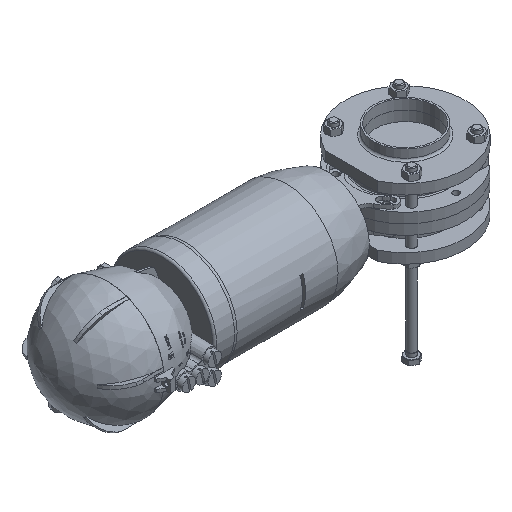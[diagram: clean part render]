
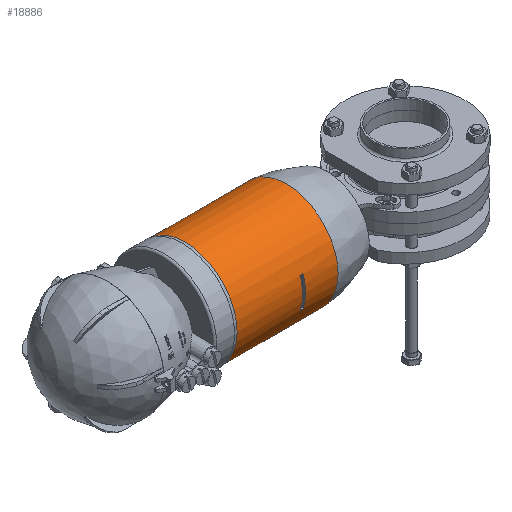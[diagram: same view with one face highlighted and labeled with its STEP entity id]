
A CAD part, isometric view. The second image highlights one B-rep face of the part: STEP entity #18886.
In plain terms, the highlighted cylindrical face has radius 52 mm (diameter 104 mm), a full revolution.
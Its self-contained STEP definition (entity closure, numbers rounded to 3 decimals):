
#698=B_SPLINE_CURVE_WITH_KNOTS('',3,(#29595,#29596,#29597,#29598,#29599,
#29600,#29601,#29602,#29603,#29604),.UNSPECIFIED.,.F.,.F.,(4,2,2,2,4),(2.276,
2.466,2.656,2.845,3.034),
 .UNSPECIFIED.);
#699=B_SPLINE_CURVE_WITH_KNOTS('',3,(#29606,#29607,#29608,#29609,#29610,
#29611,#29612,#29613,#29614,#29615,#29616,#29617,#29618,#29619,#29620,#29621,
#29622,#29623),.UNSPECIFIED.,.F.,.F.,(4,2,2,2,2,2,2,2,4),(0.759,
0.949,1.139,1.328,1.517,1.706,
1.895,2.086,2.276),.UNSPECIFIED.);
#700=B_SPLINE_CURVE_WITH_KNOTS('',3,(#29624,#29625,#29626,#29627,#29628,
#29629,#29630,#29631,#29632,#29633),.UNSPECIFIED.,.F.,.F.,(4,2,2,2,4),(3.034,
3.224,3.413,3.603,3.793),
 .UNSPECIFIED.);
#1019=CYLINDRICAL_SURFACE('',#20387,52.);
#2189=FACE_BOUND('',#5740,.T.);
#2190=FACE_BOUND('',#5741,.T.);
#2493=LINE('',#29400,#3583);
#2496=LINE('',#29432,#3586);
#2526=LINE('',#29671,#3616);
#3583=VECTOR('',#23115,10.);
#3586=VECTOR('',#23128,10.);
#3616=VECTOR('',#23286,52.);
#4649=FACE_OUTER_BOUND('',#5739,.T.);
#5739=EDGE_LOOP('',(#13080,#13081,#13082,#13083,#13084,#13085));
#5740=EDGE_LOOP('',(#13086,#13087,#13088,#13089));
#5741=EDGE_LOOP('',(#13090,#13091,#13092));
#6858=CIRCLE('',#20322,52.);
#6859=CIRCLE('',#20325,52.);
#6868=CIRCLE('',#20344,52.);
#6869=CIRCLE('',#20345,52.);
#6889=CIRCLE('',#20385,52.);
#6890=CIRCLE('',#20386,52.);
#7821=VERTEX_POINT('',#29397);
#7822=VERTEX_POINT('',#29399);
#7825=VERTEX_POINT('',#29407);
#7827=VERTEX_POINT('',#29431);
#7837=VERTEX_POINT('',#29507);
#7838=VERTEX_POINT('',#29509);
#7865=VERTEX_POINT('',#29592);
#7866=VERTEX_POINT('',#29594);
#7867=VERTEX_POINT('',#29605);
#7869=VERTEX_POINT('',#29665);
#7870=VERTEX_POINT('',#29667);
#9796=EDGE_CURVE('',#7822,#7821,#2493,.T.);
#9800=EDGE_CURVE('',#7825,#7822,#6858,.T.);
#9803=EDGE_CURVE('',#7827,#7825,#2496,.T.);
#9805=EDGE_CURVE('',#7821,#7827,#6859,.T.);
#9824=EDGE_CURVE('',#7838,#7837,#6868,.T.);
#9825=EDGE_CURVE('',#7837,#7838,#6869,.T.);
#9862=EDGE_CURVE('',#7866,#7865,#698,.T.);
#9863=EDGE_CURVE('',#7867,#7866,#699,.T.);
#9864=EDGE_CURVE('',#7865,#7867,#700,.T.);
#9868=EDGE_CURVE('',#7870,#7869,#6889,.T.);
#9869=EDGE_CURVE('',#7869,#7870,#6890,.T.);
#9870=EDGE_CURVE('',#7838,#7870,#2526,.T.);
#13080=ORIENTED_EDGE('',*,*,#9824,.T.);
#13081=ORIENTED_EDGE('',*,*,#9825,.T.);
#13082=ORIENTED_EDGE('',*,*,#9870,.T.);
#13083=ORIENTED_EDGE('',*,*,#9868,.T.);
#13084=ORIENTED_EDGE('',*,*,#9869,.T.);
#13085=ORIENTED_EDGE('',*,*,#9870,.F.);
#13086=ORIENTED_EDGE('',*,*,#9805,.T.);
#13087=ORIENTED_EDGE('',*,*,#9803,.T.);
#13088=ORIENTED_EDGE('',*,*,#9800,.T.);
#13089=ORIENTED_EDGE('',*,*,#9796,.T.);
#13090=ORIENTED_EDGE('',*,*,#9863,.T.);
#13091=ORIENTED_EDGE('',*,*,#9862,.T.);
#13092=ORIENTED_EDGE('',*,*,#9864,.T.);
#18886=ADVANCED_FACE('',(#4649,#2189,#2190),#1019,.T.);
#20322=AXIS2_PLACEMENT_3D('',#29408,#23123,#23124);
#20325=AXIS2_PLACEMENT_3D('',#29435,#23132,#23133);
#20344=AXIS2_PLACEMENT_3D('',#29510,#23178,#23179);
#20345=AXIS2_PLACEMENT_3D('',#29511,#23180,#23181);
#20385=AXIS2_PLACEMENT_3D('',#29668,#23280,#23281);
#20386=AXIS2_PLACEMENT_3D('',#29669,#23282,#23283);
#20387=AXIS2_PLACEMENT_3D('',#29670,#23284,#23285);
#23115=DIRECTION('',(0.,1.,0.));
#23123=DIRECTION('center_axis',(0.,-1.,0.));
#23124=DIRECTION('ref_axis',(0.,0.,
1.));
#23128=DIRECTION('',(0.,-1.,0.));
#23132=DIRECTION('center_axis',(0.,1.,0.));
#23133=DIRECTION('ref_axis',(0.,0.,
1.));
#23178=DIRECTION('center_axis',(0.,-1.,0.));
#23179=DIRECTION('ref_axis',(0.,0.,
1.));
#23180=DIRECTION('center_axis',(0.,-1.,0.));
#23181=DIRECTION('ref_axis',(0.,0.,
1.));
#23280=DIRECTION('center_axis',(0.,1.,0.));
#23281=DIRECTION('ref_axis',(1.,0.,0.));
#23282=DIRECTION('center_axis',(0.,1.,0.));
#23283=DIRECTION('ref_axis',(1.,0.,0.));
#23284=DIRECTION('center_axis',(0.,1.,0.));
#23285=DIRECTION('ref_axis',(-1.,0.,0.));
#23286=DIRECTION('',(0.,-1.,0.));
#29397=CARTESIAN_POINT('',(15.,77.,-49.79));
#29399=CARTESIAN_POINT('',(15.,74.,-49.79));
#29400=CARTESIAN_POINT('',(15.,106.75,-49.79));
#29407=CARTESIAN_POINT('',(-15.,74.,-49.79));
#29408=CARTESIAN_POINT('Origin',(0.,74.,
0.));
#29431=CARTESIAN_POINT('',(-15.,77.,-49.79));
#29432=CARTESIAN_POINT('',(-15.,106.75,-49.79));
#29435=CARTESIAN_POINT('Origin',(0.,77.,
0.));
#29507=CARTESIAN_POINT('',(0.,142.5,-52.));
#29509=CARTESIAN_POINT('',(52.,142.5,0.));
#29510=CARTESIAN_POINT('Origin',(0.,142.5,0.));
#29511=CARTESIAN_POINT('Origin',(0.,142.5,0.));
#29592=CARTESIAN_POINT('',(-4.963,59.,51.763));
#29594=CARTESIAN_POINT('',(0.,53.9,52.));
#29595=CARTESIAN_POINT('Ctrl Pts',(0.,53.9,
52.));
#29596=CARTESIAN_POINT('Ctrl Pts',(-0.634,53.9,
52.));
#29597=CARTESIAN_POINT('Ctrl Pts',(-1.308,54.033,51.987));
#29598=CARTESIAN_POINT('Ctrl Pts',(-2.541,54.566,51.942));
#29599=CARTESIAN_POINT('Ctrl Pts',(-3.1,54.966,51.909));
#29600=CARTESIAN_POINT('Ctrl Pts',(-3.973,55.879,51.85));
#29601=CARTESIAN_POINT('Ctrl Pts',(-4.348,56.45,51.819));
#29602=CARTESIAN_POINT('Ctrl Pts',(-4.842,57.696,51.775));
#29603=CARTESIAN_POINT('Ctrl Pts',(-4.963,58.37,51.763));
#29604=CARTESIAN_POINT('Ctrl Pts',(-4.963,59.,51.763));
#29605=CARTESIAN_POINT('',(0.,64.1,52.));
#29606=CARTESIAN_POINT('Ctrl Pts',(0.,64.1,
52.));
#29607=CARTESIAN_POINT('Ctrl Pts',(0.634,64.1,52.));
#29608=CARTESIAN_POINT('Ctrl Pts',(1.308,63.967,51.987));
#29609=CARTESIAN_POINT('Ctrl Pts',(2.541,63.434,51.942));
#29610=CARTESIAN_POINT('Ctrl Pts',(3.1,63.034,51.909));
#29611=CARTESIAN_POINT('Ctrl Pts',(3.973,62.121,51.85));
#29612=CARTESIAN_POINT('Ctrl Pts',(4.348,61.55,51.819));
#29613=CARTESIAN_POINT('Ctrl Pts',(4.842,60.304,51.775));
#29614=CARTESIAN_POINT('Ctrl Pts',(4.963,59.63,51.763));
#29615=CARTESIAN_POINT('Ctrl Pts',(4.963,58.37,51.763));
#29616=CARTESIAN_POINT('Ctrl Pts',(4.842,57.696,51.775));
#29617=CARTESIAN_POINT('Ctrl Pts',(4.348,56.45,51.819));
#29618=CARTESIAN_POINT('Ctrl Pts',(3.973,55.879,51.85));
#29619=CARTESIAN_POINT('Ctrl Pts',(3.1,54.966,51.909));
#29620=CARTESIAN_POINT('Ctrl Pts',(2.541,54.566,51.942));
#29621=CARTESIAN_POINT('Ctrl Pts',(1.308,54.033,51.987));
#29622=CARTESIAN_POINT('Ctrl Pts',(0.634,53.9,52.));
#29623=CARTESIAN_POINT('Ctrl Pts',(0.,53.9,
52.));
#29624=CARTESIAN_POINT('Ctrl Pts',(-4.963,59.,51.763));
#29625=CARTESIAN_POINT('Ctrl Pts',(-4.963,59.63,51.763));
#29626=CARTESIAN_POINT('Ctrl Pts',(-4.842,60.304,51.775));
#29627=CARTESIAN_POINT('Ctrl Pts',(-4.348,61.55,51.819));
#29628=CARTESIAN_POINT('Ctrl Pts',(-3.973,62.121,51.85));
#29629=CARTESIAN_POINT('Ctrl Pts',(-3.1,63.034,51.909));
#29630=CARTESIAN_POINT('Ctrl Pts',(-2.541,63.434,51.942));
#29631=CARTESIAN_POINT('Ctrl Pts',(-1.308,63.967,51.987));
#29632=CARTESIAN_POINT('Ctrl Pts',(-0.634,64.1,
52.));
#29633=CARTESIAN_POINT('Ctrl Pts',(0.,64.1,
52.));
#29665=CARTESIAN_POINT('',(0.,41.351,-52.));
#29667=CARTESIAN_POINT('',(52.,41.351,0.));
#29668=CARTESIAN_POINT('Origin',(0.,41.351,0.));
#29669=CARTESIAN_POINT('Origin',(0.,41.351,0.));
#29670=CARTESIAN_POINT('Origin',(0.,56.176,0.));
#29671=CARTESIAN_POINT('',(52.,56.176,0.));
